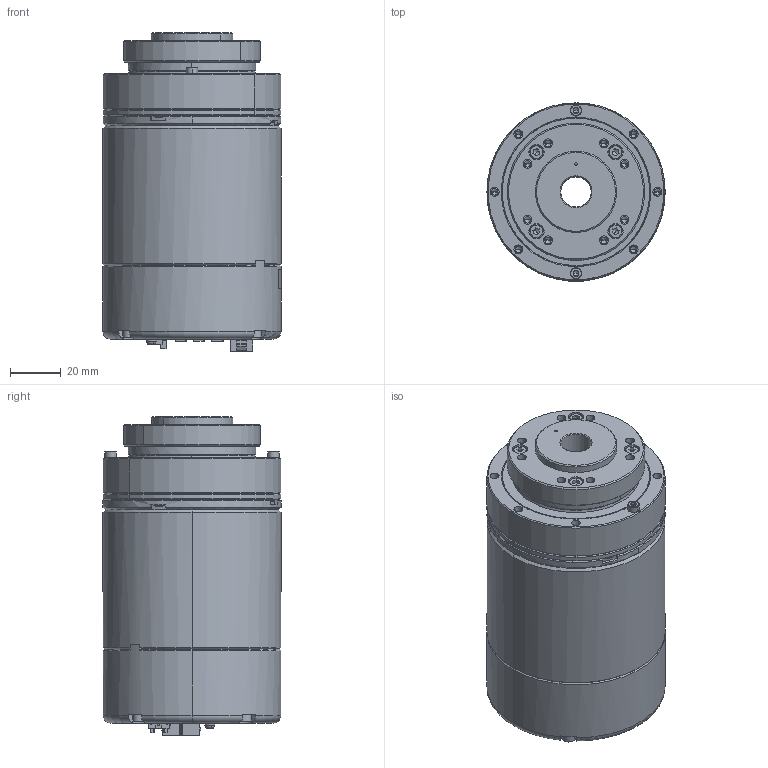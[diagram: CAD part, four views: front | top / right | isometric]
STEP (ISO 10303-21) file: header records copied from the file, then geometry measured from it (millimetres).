
FILE_DESCRIPTION (( 'STEP AP214' ), '1' );
FILE_NAME ('RBS4M070HT16N16C0000.STEP', '2021-11-18T08:57:48', ( '' ), ( '' ), 'SwSTEP 2.0', 'SolidWorks 2021', '' );
FILE_SCHEMA (( 'AUTOMOTIVE_DESIGN' ));
Length unit declared in the file: millimetre
Products named in the file (3): RBS4M070HT16N16C0000_Body; RBS4M070HT16N16C0000; RBS4M070HT16N16C0000_OutPutShaft
Assembly tree (2 placements, depth 2):
  RBS4M070HT16N16C0000
    RBS4M070HT16N16C0000_OutPutShaft
    RBS4M070HT16N16C0000_Body
Bounding box: 70 x 70 x 125.22 mm (x, y, z)
Volume: 413846.3 mm3; surface area: 53053.5 mm2
Topology: 2 solids, 11 shells, 1749 faces, 4633 edges, 2989 vertices
Faces by surface type: plane 1173, cylinder 273, bspline 144, cone 132, sphere 16, torus 11
Entity records: 76526 total; most frequent: CARTESIAN_POINT 15728, ORIENTED_EDGE 9170, DIRECTION 8198, EDGE_CURVE 4585, VECTOR 3392, LINE 3392, VERTEX_POINT 2989, AXIS2_PLACEMENT_3D 2403
